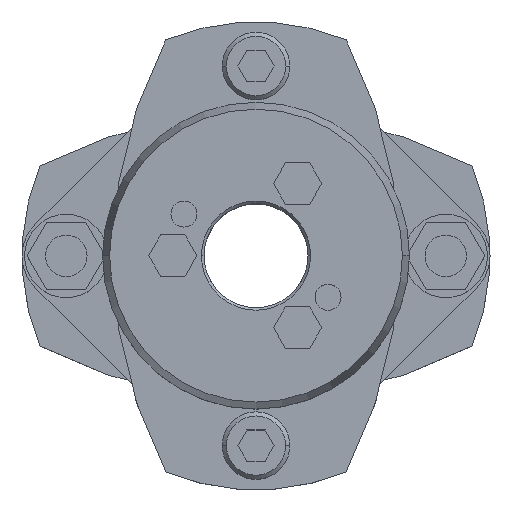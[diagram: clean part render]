
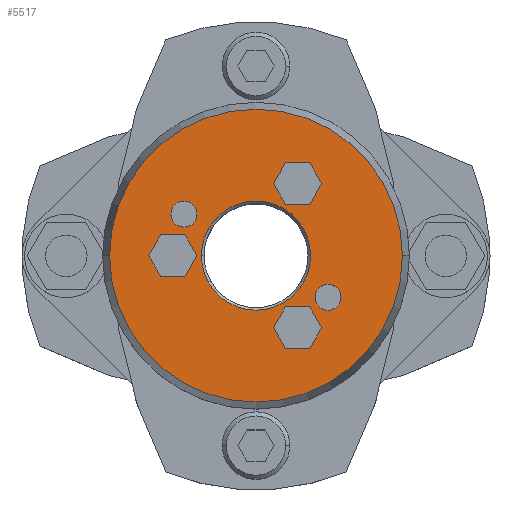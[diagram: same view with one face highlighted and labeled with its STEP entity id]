
A CAD part, top view. The second image highlights one B-rep face of the part: STEP entity #5517.
In plain terms, the highlighted planar face has unit normal (0, 0, 1).
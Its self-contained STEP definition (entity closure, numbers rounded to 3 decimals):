
#857=CARTESIAN_POINT('',(-10.5,0.,39.25));
#858=VERTEX_POINT('',#857);
#874=CARTESIAN_POINT('',(10.5,0.,39.25));
#875=VERTEX_POINT('',#874);
#882=CARTESIAN_POINT('',(0.,0.,39.25));
#883=DIRECTION('',(0.0,0.0,1.0));
#884=DIRECTION('',(-1.0,0.0,0.0));
#885=AXIS2_PLACEMENT_3D('',#882,#883,#884);
#886=CIRCLE('',#885,10.5);
#887=EDGE_CURVE('',#875,#858,#886,.T.);
#1045=CARTESIAN_POINT('',(28.16,0.,39.25));
#1046=VERTEX_POINT('',#1045);
#1053=CARTESIAN_POINT('',(-28.16,0.,39.25));
#1054=VERTEX_POINT('',#1053);
#1055=CARTESIAN_POINT('',(0.,0.,39.25));
#1056=DIRECTION('',(0.0,0.0,-1.0));
#1057=DIRECTION('',(1.0,0.0,0.0));
#1058=AXIS2_PLACEMENT_3D('',#1055,#1056,#1057);
#1059=CIRCLE('',#1058,28.16);
#1060=EDGE_CURVE('',#1046,#1054,#1059,.T.);
#1303=CARTESIAN_POINT('',(-16.356,8.,39.25));
#1304=VERTEX_POINT('',#1303);
#1320=CARTESIAN_POINT('',(-11.356,8.,39.25));
#1321=VERTEX_POINT('',#1320);
#1328=CARTESIAN_POINT('',(-13.856,8.,39.25));
#1329=DIRECTION('',(0.0,0.0,-1.0));
#1330=DIRECTION('',(-1.0,0.0,0.0));
#1331=AXIS2_PLACEMENT_3D('',#1328,#1329,#1330);
#1332=CIRCLE('',#1331,2.5);
#1333=EDGE_CURVE('',#1304,#1321,#1332,.T.);
#1345=CARTESIAN_POINT('',(11.356,-8.,39.25));
#1346=VERTEX_POINT('',#1345);
#1362=CARTESIAN_POINT('',(16.356,-8.,39.25));
#1363=VERTEX_POINT('',#1362);
#1370=CARTESIAN_POINT('',(13.856,-8.,39.25));
#1371=DIRECTION('',(0.0,0.0,-1.0));
#1372=DIRECTION('',(-1.0,0.0,0.0));
#1373=AXIS2_PLACEMENT_3D('',#1370,#1371,#1372);
#1374=CIRCLE('',#1373,2.5);
#1375=EDGE_CURVE('',#1346,#1363,#1374,.T.);
#4033=CARTESIAN_POINT('',(3.381,13.856,39.25));
#4034=VERTEX_POINT('',#4033);
#4041=CARTESIAN_POINT('',(5.691,9.856,39.25));
#4042=VERTEX_POINT('',#4041);
#4043=CARTESIAN_POINT('',(5.691,9.856,39.25));
#4044=DIRECTION('',(-0.5,0.866,0.0));
#4045=VECTOR('',#4044,4.619);
#4046=LINE('',#4043,#4045);
#4047=EDGE_CURVE('',#4042,#4034,#4046,.T.);
#4071=CARTESIAN_POINT('',(5.691,17.856,39.25));
#4072=VERTEX_POINT('',#4071);
#4079=CARTESIAN_POINT('',(3.381,13.856,39.25));
#4080=DIRECTION('',(0.5,0.866,0.0));
#4081=VECTOR('',#4080,4.619);
#4082=LINE('',#4079,#4081);
#4083=EDGE_CURVE('',#4034,#4072,#4082,.T.);
#4102=CARTESIAN_POINT('',(10.309,17.856,39.25));
#4103=VERTEX_POINT('',#4102);
#4110=CARTESIAN_POINT('',(5.691,17.856,39.25));
#4111=DIRECTION('',(1.0,0.0,0.0));
#4112=VECTOR('',#4111,4.619);
#4113=LINE('',#4110,#4112);
#4114=EDGE_CURVE('',#4072,#4103,#4113,.T.);
#4133=CARTESIAN_POINT('',(12.619,13.856,39.25));
#4134=VERTEX_POINT('',#4133);
#4141=CARTESIAN_POINT('',(10.309,17.856,39.25));
#4142=DIRECTION('',(0.5,-0.866,0.0));
#4143=VECTOR('',#4142,4.619);
#4144=LINE('',#4141,#4143);
#4145=EDGE_CURVE('',#4103,#4134,#4144,.T.);
#4164=CARTESIAN_POINT('',(10.309,9.856,39.25));
#4165=VERTEX_POINT('',#4164);
#4172=CARTESIAN_POINT('',(12.619,13.856,39.25));
#4173=DIRECTION('',(-0.5,-0.866,0.0));
#4174=VECTOR('',#4173,4.619);
#4175=LINE('',#4172,#4174);
#4176=EDGE_CURVE('',#4134,#4165,#4175,.T.);
#4194=CARTESIAN_POINT('',(10.309,9.856,39.25));
#4195=DIRECTION('',(-1.0,0.0,0.0));
#4196=VECTOR('',#4195,4.619);
#4197=LINE('',#4194,#4196);
#4198=EDGE_CURVE('',#4165,#4042,#4197,.T.);
#4233=CARTESIAN_POINT('',(-20.619,0.,39.25));
#4234=VERTEX_POINT('',#4233);
#4241=CARTESIAN_POINT('',(-18.309,-4.,39.25));
#4242=VERTEX_POINT('',#4241);
#4243=CARTESIAN_POINT('',(-18.309,-4.,39.25));
#4244=DIRECTION('',(-0.5,0.866,0.0));
#4245=VECTOR('',#4244,4.619);
#4246=LINE('',#4243,#4245);
#4247=EDGE_CURVE('',#4242,#4234,#4246,.T.);
#4271=CARTESIAN_POINT('',(-18.309,4.,39.25));
#4272=VERTEX_POINT('',#4271);
#4279=CARTESIAN_POINT('',(-20.619,0.,39.25));
#4280=DIRECTION('',(0.5,0.866,0.0));
#4281=VECTOR('',#4280,4.619);
#4282=LINE('',#4279,#4281);
#4283=EDGE_CURVE('',#4234,#4272,#4282,.T.);
#4302=CARTESIAN_POINT('',(-13.691,4.,39.25));
#4303=VERTEX_POINT('',#4302);
#4310=CARTESIAN_POINT('',(-18.309,4.,39.25));
#4311=DIRECTION('',(1.0,0.0,0.0));
#4312=VECTOR('',#4311,4.619);
#4313=LINE('',#4310,#4312);
#4314=EDGE_CURVE('',#4272,#4303,#4313,.T.);
#4333=CARTESIAN_POINT('',(-11.381,0.,39.25));
#4334=VERTEX_POINT('',#4333);
#4341=CARTESIAN_POINT('',(-13.691,4.,39.25));
#4342=DIRECTION('',(0.5,-0.866,0.0));
#4343=VECTOR('',#4342,4.619);
#4344=LINE('',#4341,#4343);
#4345=EDGE_CURVE('',#4303,#4334,#4344,.T.);
#4364=CARTESIAN_POINT('',(-13.691,-4.,39.25));
#4365=VERTEX_POINT('',#4364);
#4372=CARTESIAN_POINT('',(-11.381,0.,39.25));
#4373=DIRECTION('',(-0.5,-0.866,0.0));
#4374=VECTOR('',#4373,4.619);
#4375=LINE('',#4372,#4374);
#4376=EDGE_CURVE('',#4334,#4365,#4375,.T.);
#4394=CARTESIAN_POINT('',(-13.691,-4.,39.25));
#4395=DIRECTION('',(-1.0,0.0,0.0));
#4396=VECTOR('',#4395,4.619);
#4397=LINE('',#4394,#4396);
#4398=EDGE_CURVE('',#4365,#4242,#4397,.T.);
#4433=CARTESIAN_POINT('',(3.381,-13.856,39.25));
#4434=VERTEX_POINT('',#4433);
#4441=CARTESIAN_POINT('',(5.691,-17.856,39.25));
#4442=VERTEX_POINT('',#4441);
#4443=CARTESIAN_POINT('',(5.691,-17.856,39.25));
#4444=DIRECTION('',(-0.5,0.866,0.0));
#4445=VECTOR('',#4444,4.619);
#4446=LINE('',#4443,#4445);
#4447=EDGE_CURVE('',#4442,#4434,#4446,.T.);
#4471=CARTESIAN_POINT('',(5.691,-9.856,39.25));
#4472=VERTEX_POINT('',#4471);
#4479=CARTESIAN_POINT('',(3.381,-13.856,39.25));
#4480=DIRECTION('',(0.5,0.866,0.0));
#4481=VECTOR('',#4480,4.619);
#4482=LINE('',#4479,#4481);
#4483=EDGE_CURVE('',#4434,#4472,#4482,.T.);
#4502=CARTESIAN_POINT('',(10.309,-9.856,39.25));
#4503=VERTEX_POINT('',#4502);
#4510=CARTESIAN_POINT('',(5.691,-9.856,39.25));
#4511=DIRECTION('',(1.0,0.0,0.0));
#4512=VECTOR('',#4511,4.619);
#4513=LINE('',#4510,#4512);
#4514=EDGE_CURVE('',#4472,#4503,#4513,.T.);
#4533=CARTESIAN_POINT('',(12.619,-13.856,39.25));
#4534=VERTEX_POINT('',#4533);
#4541=CARTESIAN_POINT('',(10.309,-9.856,39.25));
#4542=DIRECTION('',(0.5,-0.866,0.0));
#4543=VECTOR('',#4542,4.619);
#4544=LINE('',#4541,#4543);
#4545=EDGE_CURVE('',#4503,#4534,#4544,.T.);
#4564=CARTESIAN_POINT('',(10.309,-17.856,39.25));
#4565=VERTEX_POINT('',#4564);
#4572=CARTESIAN_POINT('',(12.619,-13.856,39.25));
#4573=DIRECTION('',(-0.5,-0.866,0.0));
#4574=VECTOR('',#4573,4.619);
#4575=LINE('',#4572,#4574);
#4576=EDGE_CURVE('',#4534,#4565,#4575,.T.);
#4594=CARTESIAN_POINT('',(10.309,-17.856,39.25));
#4595=DIRECTION('',(-1.0,0.0,0.0));
#4596=VECTOR('',#4595,4.619);
#4597=LINE('',#4594,#4596);
#4598=EDGE_CURVE('',#4565,#4442,#4597,.T.);
#4624=CARTESIAN_POINT('',(13.856,-8.,39.25));
#4625=DIRECTION('',(0.0,0.0,-1.0));
#4626=DIRECTION('',(-1.0,0.0,0.0));
#4627=AXIS2_PLACEMENT_3D('',#4624,#4625,#4626);
#4628=CIRCLE('',#4627,2.5);
#4629=EDGE_CURVE('',#1363,#1346,#4628,.T.);
#4658=CARTESIAN_POINT('',(-13.856,8.,39.25));
#4659=DIRECTION('',(0.0,0.0,-1.0));
#4660=DIRECTION('',(-1.0,0.0,0.0));
#4661=AXIS2_PLACEMENT_3D('',#4658,#4659,#4660);
#4662=CIRCLE('',#4661,2.5);
#4663=EDGE_CURVE('',#1321,#1304,#4662,.T.);
#5456=CARTESIAN_POINT('',(0.,0.,39.25));
#5457=DIRECTION('',(0.0,0.0,-1.0));
#5458=DIRECTION('',(1.0,0.0,0.0));
#5459=AXIS2_PLACEMENT_3D('',#5456,#5457,#5458);
#5460=CIRCLE('',#5459,28.16);
#5461=EDGE_CURVE('',#1054,#1046,#5460,.T.);
#5466=CARTESIAN_POINT('',(-2.682,0.,39.25));
#5467=DIRECTION('',(0.0,0.0,1.0));
#5468=DIRECTION('',(-1.0,0.0,0.0));
#5469=AXIS2_PLACEMENT_3D('',#5466,#5467,#5468);
#5470=PLANE('',#5469);
#5471=ORIENTED_EDGE('',*,*,#5461,.F.);
#5472=ORIENTED_EDGE('',*,*,#1060,.F.);
#5473=EDGE_LOOP('',(#5471,#5472));
#5474=FACE_OUTER_BOUND('',#5473,.T.);
#5475=ORIENTED_EDGE('',*,*,#4047,.T.);
#5476=ORIENTED_EDGE('',*,*,#4083,.T.);
#5477=ORIENTED_EDGE('',*,*,#4114,.T.);
#5478=ORIENTED_EDGE('',*,*,#4145,.T.);
#5479=ORIENTED_EDGE('',*,*,#4176,.T.);
#5480=ORIENTED_EDGE('',*,*,#4198,.T.);
#5481=EDGE_LOOP('',(#5475,#5476,#5477,#5478,#5479,#5480));
#5482=FACE_BOUND('',#5481,.T.);
#5483=ORIENTED_EDGE('',*,*,#4247,.T.);
#5484=ORIENTED_EDGE('',*,*,#4283,.T.);
#5485=ORIENTED_EDGE('',*,*,#4314,.T.);
#5486=ORIENTED_EDGE('',*,*,#4345,.T.);
#5487=ORIENTED_EDGE('',*,*,#4376,.T.);
#5488=ORIENTED_EDGE('',*,*,#4398,.T.);
#5489=EDGE_LOOP('',(#5483,#5484,#5485,#5486,#5487,#5488));
#5490=FACE_BOUND('',#5489,.T.);
#5491=ORIENTED_EDGE('',*,*,#4447,.T.);
#5492=ORIENTED_EDGE('',*,*,#4483,.T.);
#5493=ORIENTED_EDGE('',*,*,#4514,.T.);
#5494=ORIENTED_EDGE('',*,*,#4545,.T.);
#5495=ORIENTED_EDGE('',*,*,#4576,.T.);
#5496=ORIENTED_EDGE('',*,*,#4598,.T.);
#5497=EDGE_LOOP('',(#5491,#5492,#5493,#5494,#5495,#5496));
#5498=FACE_BOUND('',#5497,.T.);
#5499=ORIENTED_EDGE('',*,*,#1375,.T.);
#5500=ORIENTED_EDGE('',*,*,#4629,.T.);
#5501=EDGE_LOOP('',(#5499,#5500));
#5502=FACE_BOUND('',#5501,.T.);
#5503=ORIENTED_EDGE('',*,*,#1333,.T.);
#5504=ORIENTED_EDGE('',*,*,#4663,.T.);
#5505=EDGE_LOOP('',(#5503,#5504));
#5506=FACE_BOUND('',#5505,.T.);
#5507=ORIENTED_EDGE('',*,*,#887,.F.);
#5508=CARTESIAN_POINT('',(0.,0.,39.25));
#5509=DIRECTION('',(0.0,0.0,1.0));
#5510=DIRECTION('',(-1.0,0.0,0.0));
#5511=AXIS2_PLACEMENT_3D('',#5508,#5509,#5510);
#5512=CIRCLE('',#5511,10.5);
#5513=EDGE_CURVE('',#858,#875,#5512,.T.);
#5514=ORIENTED_EDGE('',*,*,#5513,.F.);
#5515=EDGE_LOOP('',(#5507,#5514));
#5516=FACE_BOUND('',#5515,.T.);
#5517=ADVANCED_FACE('',(#5474,#5482,#5490,#5498,#5502,#5506,#5516),#5470,.T.);
